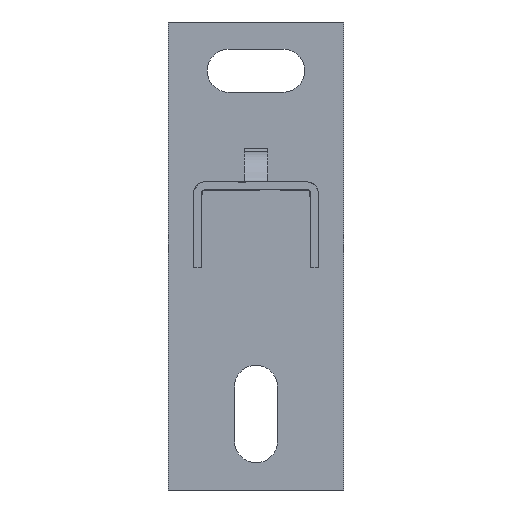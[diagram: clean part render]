
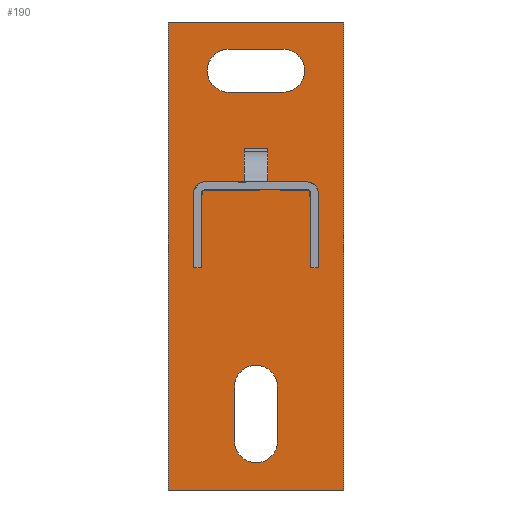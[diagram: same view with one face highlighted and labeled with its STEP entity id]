
A CAD part, front view. The second image highlights one B-rep face of the part: STEP entity #190.
In plain terms, the highlighted planar face has unit normal (0, -1, 0).
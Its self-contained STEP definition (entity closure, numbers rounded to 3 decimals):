
#122=FACE_BOUND($,#375,.T.);
#123=FACE_BOUND($,#376,.T.);
#190=ADVANCED_FACE($,(#278,#122,#123),#1320,.T.);
#278=FACE_OUTER_BOUND($,#374,.T.);
#374=EDGE_LOOP($,(#738,#739,#740,#741));
#375=EDGE_LOOP($,(#742,#743));
#376=EDGE_LOOP($,(#744,#745));
#738=ORIENTED_EDGE($,*,*,#1026,.T.);
#739=ORIENTED_EDGE($,*,*,#1037,.T.);
#740=ORIENTED_EDGE($,*,*,#1036,.T.);
#741=ORIENTED_EDGE($,*,*,#1035,.T.);
#742=ORIENTED_EDGE($,*,*,#1027,.T.);
#743=ORIENTED_EDGE($,*,*,#1045,.T.);
#744=ORIENTED_EDGE($,*,*,#1028,.T.);
#745=ORIENTED_EDGE($,*,*,#1048,.T.);
#1026=EDGE_CURVE($,#1198,#1206,#1548,.T.);
#1027=EDGE_CURVE($,#1199,#1210,#1420,.T.);
#1028=EDGE_CURVE($,#1200,#1212,#1421,.T.);
#1035=EDGE_CURVE($,#1204,#1198,#1553,.T.);
#1036=EDGE_CURVE($,#1205,#1204,#1554,.T.);
#1037=EDGE_CURVE($,#1206,#1205,#1555,.T.);
#1045=EDGE_CURVE($,#1210,#1199,#1424,.T.);
#1048=EDGE_CURVE($,#1212,#1200,#1426,.T.);
#1198=VERTEX_POINT($,#3979);
#1199=VERTEX_POINT($,#3980);
#1200=VERTEX_POINT($,#3981);
#1204=VERTEX_POINT($,#3985);
#1205=VERTEX_POINT($,#3986);
#1206=VERTEX_POINT($,#3987);
#1210=VERTEX_POINT($,#3991);
#1212=VERTEX_POINT($,#3993);
#1320=PLANE($,#1594);
#1420=(
BOUNDED_CURVE()
B_SPLINE_CURVE(2,(#3831,#3832,#3833,#3834,#3835,#3836,#3837),.UNSPECIFIED.,
.F.,.F.)
B_SPLINE_CURVE_WITH_KNOTS((3,2,2,3),(-111.115,-97.115,
-88.476,-79.836),.UNSPECIFIED.)
CURVE()
GEOMETRIC_REPRESENTATION_ITEM()
RATIONAL_B_SPLINE_CURVE((1.,1.,1.,0.707,1.,0.707,
1.))
REPRESENTATION_ITEM($)
);
#1421=(
BOUNDED_CURVE()
B_SPLINE_CURVE(2,(#3838,#3839,#3840,#3841,#3842,#3843,#3844),.UNSPECIFIED.,
.F.,.F.)
B_SPLINE_CURVE_WITH_KNOTS((3,2,2,3),(-111.115,-97.115,
-88.476,-79.836),.UNSPECIFIED.)
CURVE()
GEOMETRIC_REPRESENTATION_ITEM()
RATIONAL_B_SPLINE_CURVE((1.,1.,1.,0.707,1.,0.707,
1.))
REPRESENTATION_ITEM($)
);
#1424=(
BOUNDED_CURVE()
B_SPLINE_CURVE(2,(#3887,#3888,#3889,#3890,#3891,#3892,#3893),.UNSPECIFIED.,
.F.,.F.)
B_SPLINE_CURVE_WITH_KNOTS((3,2,2,3),(-79.836,-65.836,
-57.197,-48.558),.UNSPECIFIED.)
CURVE()
GEOMETRIC_REPRESENTATION_ITEM()
RATIONAL_B_SPLINE_CURVE((1.,1.,1.,0.707,1.,0.707,
1.))
REPRESENTATION_ITEM($)
);
#1426=(
BOUNDED_CURVE()
B_SPLINE_CURVE(2,(#3903,#3904,#3905,#3906,#3907,#3908,#3909),.UNSPECIFIED.,
.F.,.F.)
B_SPLINE_CURVE_WITH_KNOTS((3,2,2,3),(-79.836,-65.836,
-57.197,-48.558),.UNSPECIFIED.)
CURVE()
GEOMETRIC_REPRESENTATION_ITEM()
RATIONAL_B_SPLINE_CURVE((1.,1.,1.,0.707,1.,0.707,
1.))
REPRESENTATION_ITEM($)
);
#1548=B_SPLINE_CURVE_WITH_KNOTS($,1,(#3829,#3830),.UNSPECIFIED.,.F.,.F.,
(2,2),(0.,45.),.UNSPECIFIED.);
#1553=B_SPLINE_CURVE_WITH_KNOTS($,1,(#3867,#3868),.UNSPECIFIED.,.F.,.F.,
(2,2),(210.,330.),.UNSPECIFIED.);
#1554=B_SPLINE_CURVE_WITH_KNOTS($,1,(#3869,#3870),.UNSPECIFIED.,.F.,.F.,
(2,2),(165.,210.),.UNSPECIFIED.);
#1555=B_SPLINE_CURVE_WITH_KNOTS($,1,(#3871,#3872),.UNSPECIFIED.,.F.,.F.,
(2,2),(45.,165.),.UNSPECIFIED.);
#1594=AXIS2_PLACEMENT_3D($,#3917,#1608,$);
#1608=DIRECTION($,(0.,-1.,0.));
#3829=CARTESIAN_POINT($,(-22.5,0.,-120.));
#3830=CARTESIAN_POINT($,(22.5,0.,-120.));
#3831=CARTESIAN_POINT($,(-7.,0.,-7.));
#3832=CARTESIAN_POINT($,(0.,0.,-7.));
#3833=CARTESIAN_POINT($,(7.,0.,-7.));
#3834=CARTESIAN_POINT($,(12.5,0.,-7.));
#3835=CARTESIAN_POINT($,(12.5,0.,-12.5));
#3836=CARTESIAN_POINT($,(12.5,0.,-18.));
#3837=CARTESIAN_POINT($,(7.,0.,-18.));
#3838=CARTESIAN_POINT($,(5.5,0.,-93.5));
#3839=CARTESIAN_POINT($,(5.5,0.,-100.5));
#3840=CARTESIAN_POINT($,(5.5,0.,-107.5));
#3841=CARTESIAN_POINT($,(5.5,0.,-113.));
#3842=CARTESIAN_POINT($,(0.,0.,-113.));
#3843=CARTESIAN_POINT($,(-5.5,0.,-113.));
#3844=CARTESIAN_POINT($,(-5.5,0.,-107.5));
#3867=CARTESIAN_POINT($,(-22.5,0.,0.));
#3868=CARTESIAN_POINT($,(-22.5,0.,-120.));
#3869=CARTESIAN_POINT($,(22.5,0.,0.));
#3870=CARTESIAN_POINT($,(-22.5,0.,0.));
#3871=CARTESIAN_POINT($,(22.5,0.,-120.));
#3872=CARTESIAN_POINT($,(22.5,0.,0.));
#3887=CARTESIAN_POINT($,(7.,0.,-18.));
#3888=CARTESIAN_POINT($,(0.,0.,-18.));
#3889=CARTESIAN_POINT($,(-7.,0.,-18.));
#3890=CARTESIAN_POINT($,(-12.5,0.,-18.));
#3891=CARTESIAN_POINT($,(-12.5,0.,-12.5));
#3892=CARTESIAN_POINT($,(-12.5,0.,-7.));
#3893=CARTESIAN_POINT($,(-7.,0.,-7.));
#3903=CARTESIAN_POINT($,(-5.5,0.,-107.5));
#3904=CARTESIAN_POINT($,(-5.5,0.,-100.5));
#3905=CARTESIAN_POINT($,(-5.5,0.,-93.5));
#3906=CARTESIAN_POINT($,(-5.5,0.,-88.));
#3907=CARTESIAN_POINT($,(0.,0.,-88.));
#3908=CARTESIAN_POINT($,(5.5,0.,-88.));
#3909=CARTESIAN_POINT($,(5.5,0.,-93.5));
#3917=CARTESIAN_POINT($,(-22.5,0.,-120.));
#3979=CARTESIAN_POINT($,(-22.5,0.,-120.));
#3980=CARTESIAN_POINT($,(-7.,0.,-7.));
#3981=CARTESIAN_POINT($,(5.5,0.,-93.5));
#3985=CARTESIAN_POINT($,(-22.5,0.,0.));
#3986=CARTESIAN_POINT($,(22.5,0.,0.));
#3987=CARTESIAN_POINT($,(22.5,0.,-120.));
#3991=CARTESIAN_POINT($,(7.,0.,-18.));
#3993=CARTESIAN_POINT($,(-5.5,0.,-107.5));
